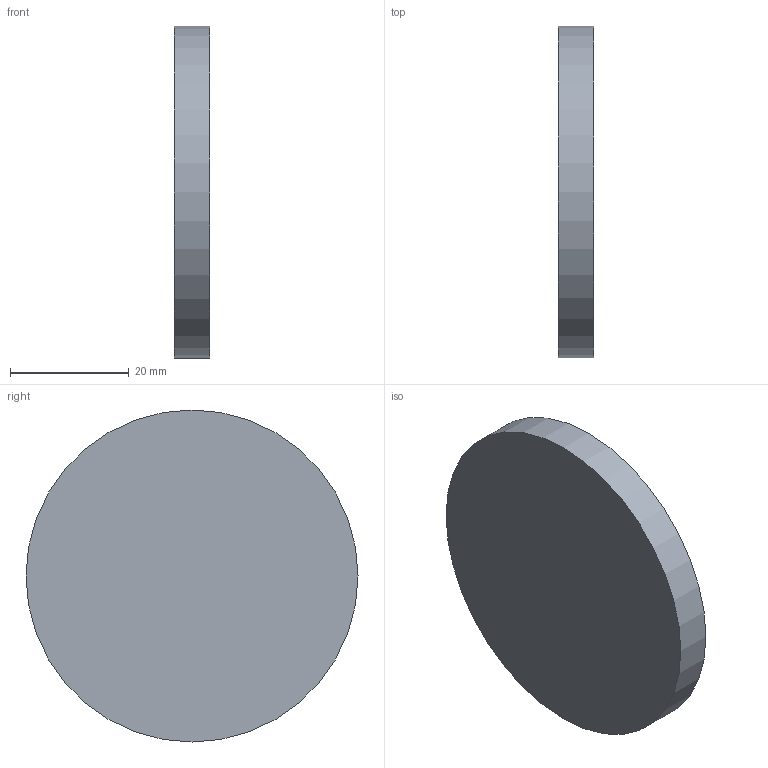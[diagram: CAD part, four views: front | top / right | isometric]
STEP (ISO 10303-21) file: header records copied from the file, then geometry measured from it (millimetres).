
FILE_DESCRIPTION(('Open CASCADE Model'),'2;1');
FILE_NAME('Open CASCADE Shape Model','2026-10-24T14:13:33',('Author'),( 'Open CASCADE'),'Open CASCADE STEP processor 7.9','Open CASCADE 7.9' ,'Unknown');
FILE_SCHEMA(('AUTOMOTIVE_DESIGN { 1 0 10303 214 1 1 1 1 }'));
Length unit declared in the file: millimetre
Products named in the file (1): Open CASCADE STEP translator 7.9 12
Bounding box: 6 x 56 x 56 mm (x, y, z)
Volume: 9813.4 mm3; surface area: 6414 mm2
Topology: 1 solids, 1 shells, 7 faces, 9 edges, 6 vertices
Faces by surface type: plane 4, cylinder 3
Full cylindrical faces by diameter (mm): 45.4 x1, 50.2 x1, 56 x1
Entity records: 276 total; most frequent: DIRECTION 49, CARTESIAN_POINT 41, ORIENTED_EDGE 18, PCURVE 18, DEFINITIONAL_REPRESENTATION 18, LINE 15, VECTOR 15, AXIS2_PLACEMENT_3D 14
